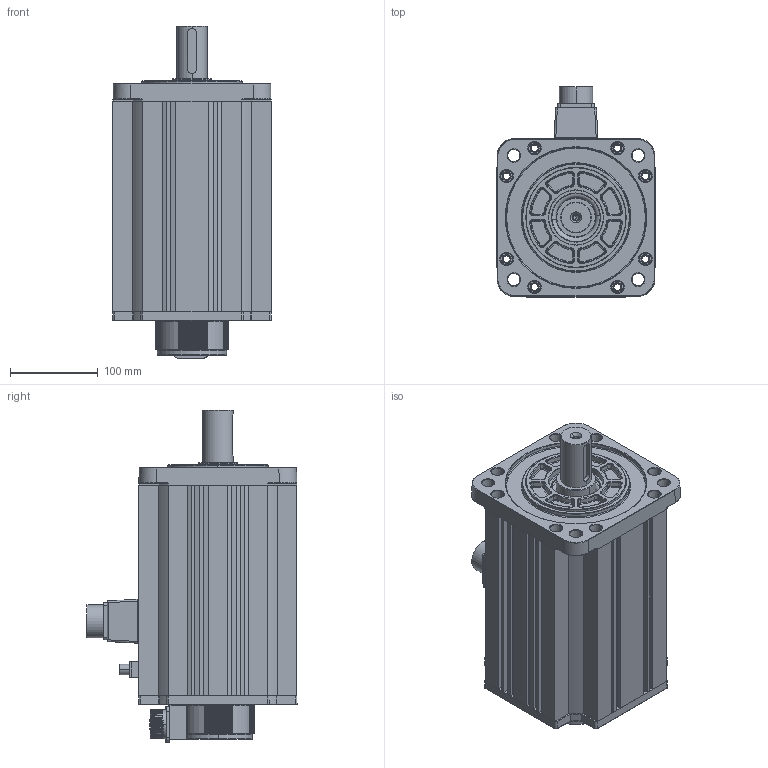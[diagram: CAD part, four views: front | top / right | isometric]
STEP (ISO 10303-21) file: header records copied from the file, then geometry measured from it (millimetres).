
FILE_DESCRIPTION (( 'STEP AP203' ), '1' );
FILE_NAME ('180ZF1500RPM4.5KWBZ.STEP', '2024-08-03T09:31:40', ( 'MicroSoft' ), ( 'MicroSoft' ), 'SwSTEP 2.0', 'SolidWorks 2020', '' );
FILE_SCHEMA (( 'CONFIG_CONTROL_DESIGN' ));
Length unit declared in the file: millimetre
Products named in the file (17): 180呿蹋晤鎢ん欶褲; 180-4郋萇埭; 180綴傷裔X 蜊(1); GB╱T 276-2013[两面带密封圈（非接触式）的深沟球轴承[60000-2RZ]6206-2RZ]_6206-2RZ; 180ヶ粣創; H12秶雄ん菁釱; 180陔癹弇釱躇猾菜2(1); Z航插15芯（公头电机端）28; 秶雄ん菜遴; 180陔癹弇釱(1); Z180-01-16(堤盄碟); Z130A-01-03(编码器后罩壳封盖）; 180ZF1500RPM4.5KWBZ; 180前端盖确定版(1)X; Z180-01-04(180-5.5bk儂褲)_4.5kw秶雄; Z130A-01-02(编码器后罩壳）; 180伺服电机全系类BLC制动转子轴_3KW
Assembly tree (16 placements, depth 3):
  180ZF1500RPM4.5KWBZ
    180ヶ粣創
    180前端盖确定版(1)X
    180綴傷裔X 蜊(1)
    180呿蹋晤鎢ん欶褲
      Z130A-01-02(编码器后罩壳）
    Z航插15芯（公头电机端）28
    Z130A-01-03(编码器后罩壳封盖）
    Z180-01-04(180-5.5bk儂褲)_4.5kw秶雄
    Z180-01-16(堤盄碟)
    180-4郋萇埭
    H12秶雄ん菁釱
    秶雄ん菜遴
    180陔癹弇釱(1)
    180陔癹弇釱躇猾菜2(1)
    180伺服电机全系类BLC制动转子轴_3KW
    GB╱T 276-2013[两面带密封圈（非接触式）的深沟球轴承[60000-2RZ]6206-2RZ]_6206-2RZ
Bounding box: 180.33 x 239.17 x 378 mm (x, y, z)
Volume: 2614704.3 mm3; surface area: 791659.2 mm2
Topology: 30 solids, 30 shells, 3657 faces, 8797 edges, 5207 vertices
Faces by surface type: cylinder 1139, plane 746, bspline 678, torus 548, cone 304, sphere 242
Entity records: 136908 total; most frequent: CARTESIAN_POINT 54684, ORIENTED_EDGE 16980, DIRECTION 16837, EDGE_CURVE 8490, AXIS2_PLACEMENT_3D 7019, VERTEX_POINT 5108, EDGE_LOOP 4054, CIRCLE 4020
